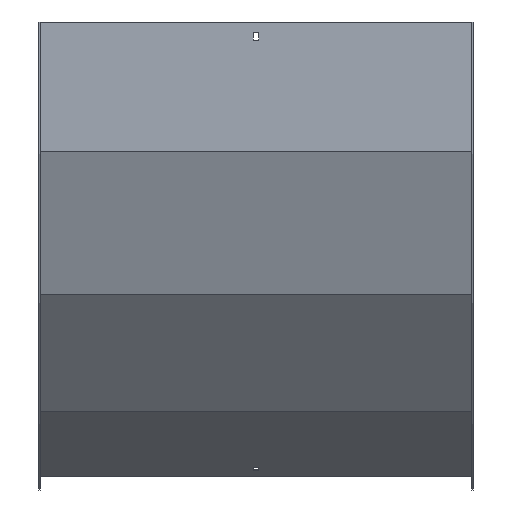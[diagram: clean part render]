
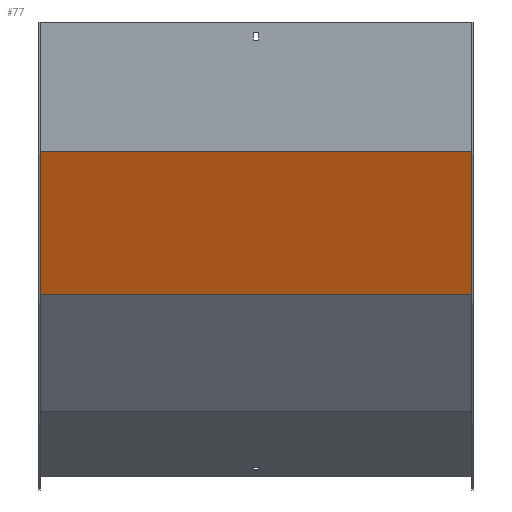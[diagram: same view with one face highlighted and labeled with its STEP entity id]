
A CAD part, front view. The second image highlights one B-rep face of the part: STEP entity #77.
In plain terms, the highlighted planar face has unit normal (0, -0.94, -0.342).
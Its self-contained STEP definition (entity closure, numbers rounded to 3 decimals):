
#23 = ORIENTED_EDGE ( 'NONE', *, *, #188, .T. ) ;
#34 = EDGE_CURVE ( 'NONE', #368, #454, #444, .T. ) ;
#77 = ADVANCED_FACE ( 'NONE', ( #674 ), #578, .F. ) ;
#96 = LINE ( 'NONE', #772, #254 ) ;
#98 = VERTEX_POINT ( 'NONE', #688 ) ;
#148 = DIRECTION ( 'NONE',  ( 0., 0.342, -0.94 ) ) ;
#188 = EDGE_CURVE ( 'NONE', #368, #98, #778, .T. ) ;
#200 = CARTESIAN_POINT ( 'NONE',  ( 250., -49.554, -18.036 ) ) ;
#215 = ORIENTED_EDGE ( 'NONE', *, *, #756, .T. ) ;
#234 = ORIENTED_EDGE ( 'NONE', *, *, #34, .F. ) ;
#254 = VECTOR ( 'NONE', #761, 1000. ) ;
#287 = DIRECTION ( 'NONE',  ( 0., -0.342, 0.94 ) ) ;
#327 = CARTESIAN_POINT ( 'NONE',  ( 250., 58.842, -315.854 ) ) ;
#368 = VERTEX_POINT ( 'NONE', #844 ) ;
#376 = VERTEX_POINT ( 'NONE', #683 ) ;
#435 = LINE ( 'NONE', #966, #501 ) ;
#444 = LINE ( 'NONE', #200, #860 ) ;
#454 = VERTEX_POINT ( 'NONE', #327 ) ;
#462 = AXIS2_PLACEMENT_3D ( 'NONE', #739, #971, #287 ) ;
#501 = VECTOR ( 'NONE', #960, 1000. ) ;
#516 = ORIENTED_EDGE ( 'NONE', *, *, #529, .F. ) ;
#529 = EDGE_CURVE ( 'NONE', #454, #376, #96, .T. ) ;
#552 = CARTESIAN_POINT ( 'NONE',  ( 251.5, -1.5, -150.064 ) ) ;
#576 = EDGE_LOOP ( 'NONE', ( #215, #516, #234, #23 ) ) ;
#578 = PLANE ( 'NONE',  #462 ) ;
#602 = VECTOR ( 'NONE', #932, 1000. ) ;
#674 = FACE_OUTER_BOUND ( 'NONE', #576, .T. ) ;
#683 = CARTESIAN_POINT ( 'NONE',  ( -250., 58.842, -315.854 ) ) ;
#688 = CARTESIAN_POINT ( 'NONE',  ( -250., -1.5, -150.064 ) ) ;
#739 = CARTESIAN_POINT ( 'NONE',  ( 251.5, -1.41, -150.313 ) ) ;
#756 = EDGE_CURVE ( 'NONE', #98, #376, #435, .T. ) ;
#761 = DIRECTION ( 'NONE',  ( -1., 0., 0. ) ) ;
#772 = CARTESIAN_POINT ( 'NONE',  ( 251.5, 58.842, -315.854 ) ) ;
#778 = LINE ( 'NONE', #552, #602 ) ;
#844 = CARTESIAN_POINT ( 'NONE',  ( 250., -1.5, -150.064 ) ) ;
#860 = VECTOR ( 'NONE', #148, 1000. ) ;
#932 = DIRECTION ( 'NONE',  ( -1., 0., 0. ) ) ;
#960 = DIRECTION ( 'NONE',  ( 0., 0.342, -0.94 ) ) ;
#966 = CARTESIAN_POINT ( 'NONE',  ( -250., -49.554, -18.036 ) ) ;
#971 = DIRECTION ( 'NONE',  ( 0., 0.94, 0.342 ) ) ;
